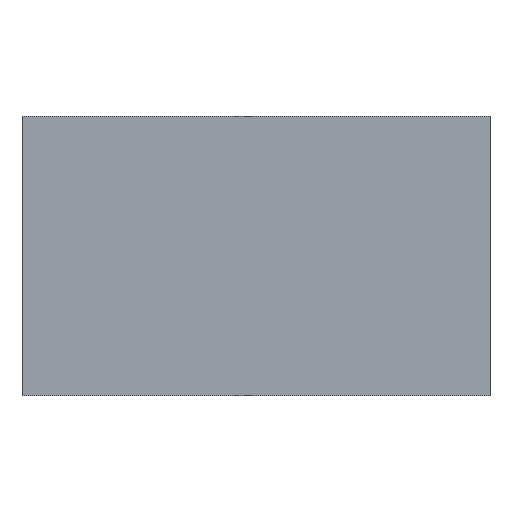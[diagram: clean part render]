
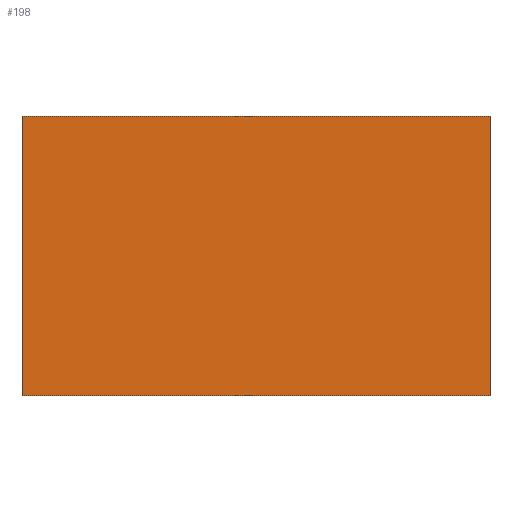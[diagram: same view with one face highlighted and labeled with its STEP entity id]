
A CAD part, top view. The second image highlights one B-rep face of the part: STEP entity #198.
In plain terms, the highlighted planar face has unit normal (0, 0, 1).
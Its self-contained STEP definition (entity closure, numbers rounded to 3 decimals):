
#4 = EDGE_CURVE ( 'NONE', #183, #181, #113, .T. ) ;
#7 = EDGE_CURVE ( 'NONE', #182, #183, #111, .T. ) ;
#9 = EDGE_CURVE ( 'NONE', #178, #182, #102, .T. ) ;
#11 = EDGE_CURVE ( 'NONE', #181, #178, #96, .T. ) ;
#17 = AXIS2_PLACEMENT_3D ( 'NONE', #76, #83, #82 ) ;
#28 = CARTESIAN_POINT ( 'NONE',  ( -401., 479., 6. ) ) ;
#30 = CARTESIAN_POINT ( 'NONE',  ( -401., 0., 6. ) ) ;
#39 = CARTESIAN_POINT ( 'NONE',  ( 401., 479., 6. ) ) ;
#74 = PLANE ( 'NONE',  #17 ) ;
#76 = CARTESIAN_POINT ( 'NONE',  ( -401., 479., 6. ) ) ;
#82 = DIRECTION ( 'NONE',  ( 0., 1., 0. ) ) ;
#83 = DIRECTION ( 'NONE',  ( 0., 0., -1. ) ) ;
#90 = VECTOR ( 'NONE', #175, 1000. ) ;
#96 = LINE ( 'NONE', #177, #90 ) ;
#101 = VECTOR ( 'NONE', #179, 1000. ) ;
#102 = LINE ( 'NONE', #184, #101 ) ;
#107 = ORIENTED_EDGE ( 'NONE', *, *, #7, .T. ) ;
#111 = LINE ( 'NONE', #162, #146 ) ;
#113 = LINE ( 'NONE', #166, #145 ) ;
#115 = ORIENTED_EDGE ( 'NONE', *, *, #4, .T. ) ;
#116 = FACE_OUTER_BOUND ( 'NONE', #151, .T. ) ;
#141 = ORIENTED_EDGE ( 'NONE', *, *, #9, .T. ) ;
#142 = ORIENTED_EDGE ( 'NONE', *, *, #11, .T. ) ;
#145 = VECTOR ( 'NONE', #188, 1000. ) ;
#146 = VECTOR ( 'NONE', #185, 1000. ) ;
#151 = EDGE_LOOP ( 'NONE', ( #115, #142, #141, #107 ) ) ;
#162 = CARTESIAN_POINT ( 'NONE',  ( -401., 479., 6. ) ) ;
#166 = CARTESIAN_POINT ( 'NONE',  ( -401., 0., 6. ) ) ;
#168 = CARTESIAN_POINT ( 'NONE',  ( 401., 0., 6. ) ) ;
#175 = DIRECTION ( 'NONE',  ( 1., 0., 0. ) ) ;
#177 = CARTESIAN_POINT ( 'NONE',  ( -401., 0., 6. ) ) ;
#178 = VERTEX_POINT ( 'NONE', #168 ) ;
#179 = DIRECTION ( 'NONE',  ( 0., 1., 0. ) ) ;
#181 = VERTEX_POINT ( 'NONE', #30 ) ;
#182 = VERTEX_POINT ( 'NONE', #39 ) ;
#183 = VERTEX_POINT ( 'NONE', #28 ) ;
#184 = CARTESIAN_POINT ( 'NONE',  ( 401., 0., 6. ) ) ;
#185 = DIRECTION ( 'NONE',  ( -1., 0., 0. ) ) ;
#188 = DIRECTION ( 'NONE',  ( 0., -1., 0. ) ) ;
#198 = ADVANCED_FACE ( 'NONE', ( #116 ), #74, .F. ) ;
